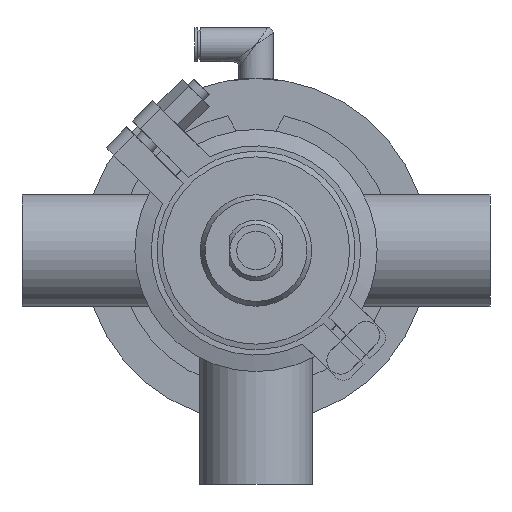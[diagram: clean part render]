
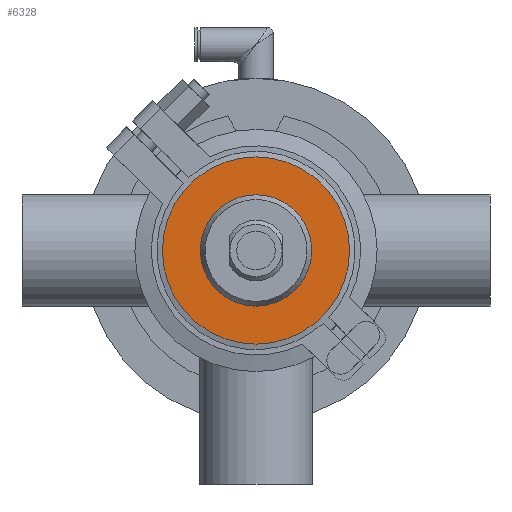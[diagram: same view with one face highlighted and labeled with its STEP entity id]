
A CAD part, front view. The second image highlights one B-rep face of the part: STEP entity #6328.
In plain terms, the highlighted planar face has unit normal (0, -1, 0).
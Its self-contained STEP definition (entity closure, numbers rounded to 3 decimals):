
#676 = DIRECTION ( 'NONE',  ( 0., 1., 0. ) ) ;
#819 = EDGE_CURVE ( 'NONE', #3474, #3474, #20852, .T. ) ;
#1067 = CIRCLE ( 'NONE', #3932, 34. ) ;
#1076 = EDGE_LOOP ( 'NONE', ( #20960 ) ) ;
#1601 = DIRECTION ( 'NONE',  ( 0., 0., 1. ) ) ;
#2229 = CARTESIAN_POINT ( 'NONE',  ( 0., -13., 0. ) ) ;
#2259 = DIRECTION ( 'NONE',  ( 0., 0., -1. ) ) ;
#2406 = AXIS2_PLACEMENT_3D ( 'NONE', #11737, #10082, #1601 ) ;
#3474 = VERTEX_POINT ( 'NONE', #11791 ) ;
#3932 = AXIS2_PLACEMENT_3D ( 'NONE', #2229, #676, #9148 ) ;
#5292 = PLANE ( 'NONE',  #5480 ) ;
#5480 = AXIS2_PLACEMENT_3D ( 'NONE', #17502, #13935, #2259 ) ;
#6328 = ADVANCED_FACE ( 'NONE', ( #8725, #14166 ), #5292, .T. ) ;
#6795 = ORIENTED_EDGE ( 'NONE', *, *, #14104, .F. ) ;
#8097 = CARTESIAN_POINT ( 'NONE',  ( 0., -13., 34. ) ) ;
#8199 = VERTEX_POINT ( 'NONE', #8097 ) ;
#8725 = FACE_BOUND ( 'NONE', #1076, .T. ) ;
#9148 = DIRECTION ( 'NONE',  ( 0., 0., 1. ) ) ;
#10082 = DIRECTION ( 'NONE',  ( 0., 1., 0. ) ) ;
#11737 = CARTESIAN_POINT ( 'NONE',  ( 0., -13., 0. ) ) ;
#11791 = CARTESIAN_POINT ( 'NONE',  ( 0., -13., 20.25 ) ) ;
#13935 = DIRECTION ( 'NONE',  ( 0., -1., 0. ) ) ;
#14104 = EDGE_CURVE ( 'NONE', #8199, #8199, #1067, .T. ) ;
#14166 = FACE_OUTER_BOUND ( 'NONE', #14345, .T. ) ;
#14345 = EDGE_LOOP ( 'NONE', ( #6795 ) ) ;
#17502 = CARTESIAN_POINT ( 'NONE',  ( -34., -13., 0. ) ) ;
#20852 = CIRCLE ( 'NONE', #2406, 20.25 ) ;
#20960 = ORIENTED_EDGE ( 'NONE', *, *, #819, .T. ) ;
